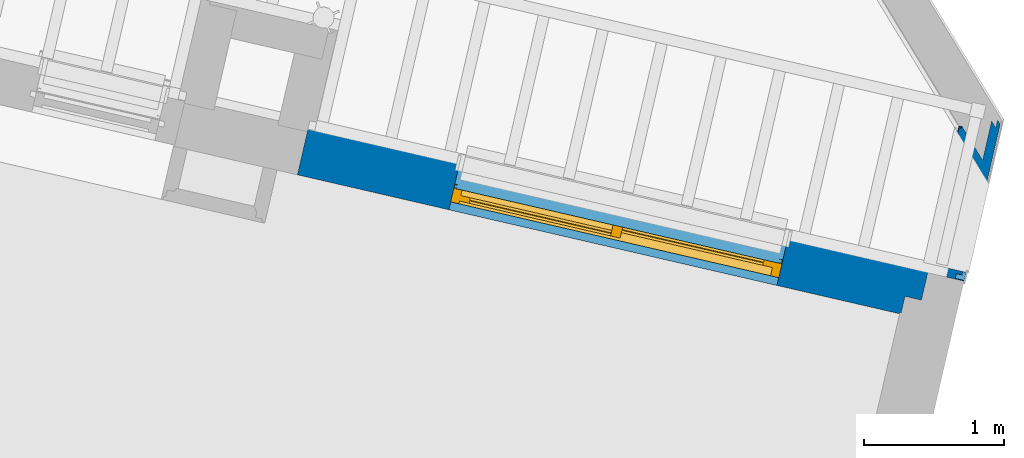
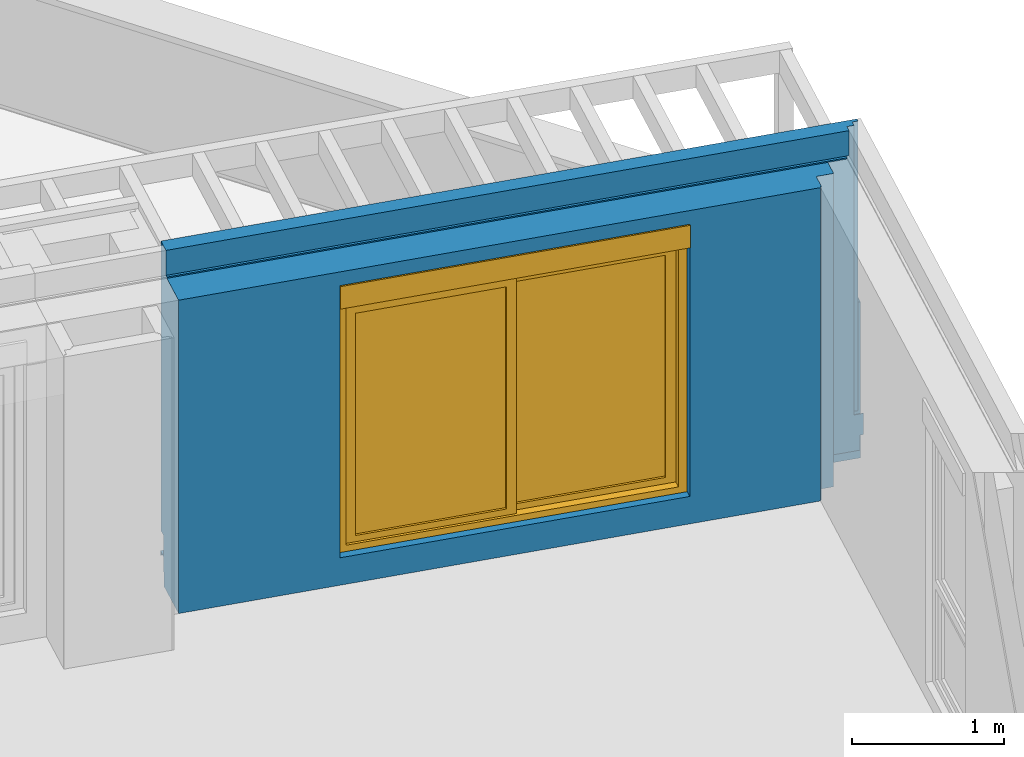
# One storey, part 36 of 62: 2 walls, 1 window, 1 opening.
"""IFC2X3 building model written with IfcOpenShell, lengths in metres."""

from ifc_helpers import new_model, entity, si_unit, converted_unit, derived_unit, money_unit, direction, frame, origin_with_axes, place, context, subcontext, project, spatial, open_shell, faceted_brep, surface_model, material, material_list, type_object, element, fill, save


model = new_model("IFC2X3")

# Units and contexts
model_context = context("Model", 3, precision=1e-05, world=origin_with_axes(), true_north=direction((0.0, 1.0)))
body_context = subcontext(model_context, "Body", "Model", "MODEL_VIEW")
ifc_project = project(units=[si_unit("LENGTHUNIT", "METRE"), si_unit("AREAUNIT", "SQUARE_METRE"), si_unit("VOLUMEUNIT", "CUBIC_METRE"), converted_unit("PLANEANGLEUNIT", "DEGREE", entity("IfcPlaneAngleMeasure", 0.0174532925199), si_unit("PLANEANGLEUNIT", "RADIAN"), dimensions=[0, 0, 0, 0, 0, 0, 0]), si_unit("SOLIDANGLEUNIT", "STERADIAN"), money_unit("EUR"), converted_unit("TIMEUNIT", "Year", entity("IfcTimeMeasure", 31556926.0), si_unit("TIMEUNIT", "SECOND"), dimensions=[0, 0, 1, 0, 0, 0, 0]), si_unit("MASSUNIT", "GRAM", prefix="KILO"), si_unit("THERMODYNAMICTEMPERATUREUNIT", "DEGREE_CELSIUS"), si_unit("LUMINOUSINTENSITYUNIT", "LUMEN"), si_unit("ENERGYUNIT", "JOULE", prefix="MEGA"), derived_unit("THERMALCONDUCTANCEUNIT", [(si_unit("POWERUNIT", "WATT"), 1), (si_unit("LENGTHUNIT", "METRE"), -1), (si_unit("THERMODYNAMICTEMPERATUREUNIT", "KELVIN"), -1)]), derived_unit("SPECIFICHEATCAPACITYUNIT", [(si_unit("ENERGYUNIT", "JOULE"), 1), (si_unit("MASSUNIT", "GRAM", prefix="KILO"), -1), (si_unit("THERMODYNAMICTEMPERATUREUNIT", "KELVIN"), -1)]), derived_unit("MASSDENSITYUNIT", [(si_unit("MASSUNIT", "GRAM", prefix="KILO"), 1), (si_unit("VOLUMEUNIT", "CUBIC_METRE"), -1)])], contexts=[model_context])

# Site, building, storey
site_placement = place(None, origin_with_axes())
site = spatial("IfcSite", under=ifc_project, at=site_placement, Name="Site", CompositionType="ELEMENT")
building_placement = place(site_placement, origin_with_axes())
building = spatial("IfcBuilding", under=site, at=building_placement, Name="Bâtiment", CompositionType="ELEMENT")
storey_placement = place(building_placement, frame((0.0, 0.0, 8.16), z_axis=(0.0, 0.0, 1.0), x_axis=(1.0, 0.0, 0.0)))
storey = spatial("IfcBuildingStorey", under=building, at=storey_placement, Name="R+3", CompositionType="ELEMENT", Elevation=8.16)

# Wall, opening, window
ifc_material_1 = material(Name="Finition int - Plaque de plâtre")
ifc_material_2 = material(Name="Isolation - Polystyrène extrudé")
ifc_material_3 = material(Name="Bloc ELITHERM")
ifc_material_4 = material(Name="Mortier")
ifc_material_5 = material(Name="Béton cellulaire")
ifc_material_6 = material(Name="Etanchéité - Bitume")
ifc_material_7 = material(Name="Bois - Lattage")
ifc_material_8 = material(Name="Finition ext - Bardage bois")
ifc_material_9 = material(Name="Métal - Aluminium")
ifc_material_list_1 = material_list([ifc_material_1, ifc_material_2, ifc_material_3, ifc_material_4, ifc_material_5, ifc_material_6, ifc_material_7, ifc_material_8, ifc_material_9])
wall_type_1 = type_object("IfcWallType", Name="Mur ALKERN + planelle 21 BARDAGE TERRASSE 403 x 2720", PredefinedType="USERDEFINED")
wall_1_placement = place(storey_placement, frame((1.22744784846, 12.8417526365, 0.0), z_axis=(0.0, 0.0, 1.0), x_axis=(-0.974387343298, 0.224876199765, 0.0)))
wall_1 = element("IfcWall", 1, at=wall_1_placement, inside=storey, type_object=wall_type_1, material=ifc_material_list_1, Name="Mue bloc ALKERN isolé", ObjectType="SOLIDWALL", context=body_context, shape_type="Brep", body=[
    faceted_brep([(0.359999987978, 0.399999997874, 0.0), (4.76539053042, 0.399999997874, 0.0), (4.76539053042, 0.399999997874, 2.51), (0.359999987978, 0.399999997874, 2.51), (3.65731715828, 0.399999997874, 2.4), (3.65731715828, 0.399999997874, 2.22), (3.65731715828, 0.399999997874, 0.22), (1.25731715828, 0.399999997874, 0.22), (1.25731715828, 0.399999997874, 2.22), (1.25731715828, 0.399999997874, 2.4), (0.359999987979, 0.410000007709, 0.0), (4.76539053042, 0.410000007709, 0.0), (4.76539053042, 0.410000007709, 2.51), (0.359999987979, 0.410000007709, 2.51), (3.65731715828, 0.410000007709, 2.4), (3.65731715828, 0.410000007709, 2.22), (3.65731715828, 0.410000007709, 0.22), (1.25731715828, 0.410000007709, 0.22), (1.25731715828, 0.410000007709, 2.22), (1.25731715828, 0.410000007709, 2.4)], [[[0, 1, 2, 3], [4, 5, 6, 7, 8, 9]], [[10, 11, 1, 0]], [[11, 12, 2, 1]], [[3, 2, 12, 13]], [[13, 10, 0, 3]], [[5, 4, 14, 15, 16, 6]], [[6, 16, 17, 7]], [[18, 19, 9, 8, 7, 17]], [[4, 9, 19, 14]], [[11, 10, 13, 12], [19, 18, 17, 16, 15, 14]]]),
    faceted_brep([(0.350000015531, 0.279999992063, 0.0), (4.76539053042, 0.279999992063, 0.0), (4.76539053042, 0.279999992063, 2.51), (0.350000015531, 0.279999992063, 2.51), (3.65731715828, 0.279999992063, 2.4), (3.65731715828, 0.279999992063, 2.22), (3.65731715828, 0.279999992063, 0.22), (1.25731715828, 0.279999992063, 0.22), (1.25731715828, 0.279999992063, 2.22), (1.25731715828, 0.279999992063, 2.4), (0.350000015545, 0.399999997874, 0.0), (4.76539053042, 0.399999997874, 0.0), (4.76539053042, 0.399999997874, 2.51), (0.350000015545, 0.399999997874, 2.51), (3.65731715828, 0.399999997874, 2.4), (3.65731715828, 0.399999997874, 2.22), (3.65731715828, 0.399999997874, 0.22), (1.25731715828, 0.399999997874, 0.22), (1.25731715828, 0.399999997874, 2.22), (1.25731715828, 0.399999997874, 2.4)], [[[0, 1, 2, 3], [4, 5, 6, 7, 8, 9]], [[10, 11, 1, 0]], [[12, 2, 1, 11]], [[3, 2, 12, 13]], [[13, 10, 0, 3]], [[5, 4, 14, 15, 16, 6]], [[6, 16, 17, 7]], [[18, 19, 9, 8, 7, 17]], [[4, 9, 19, 14]], [[11, 10, 13, 12], [19, 18, 17, 16, 15, 14]]]),
    faceted_brep([(1.25731715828, 0.279999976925, 2.22), (1.25731715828, 0.279999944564, 2.4), (1.25731715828, 0.222311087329, 2.4), (1.25731715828, 0.222311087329, 2.22), (1.25731715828, 0.0799999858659, 2.22), (1.25731715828, 0.0800000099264, 0.22), (1.25731715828, 0.280000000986, 0.22), (0.229999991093, 0.279999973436, 0.0), (0.229999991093, 0.279999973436, 2.50999999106), (4.76539053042, 0.279999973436, 2.50999999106), (4.76539053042, 0.279999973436, 0.0), (3.65731715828, 0.280000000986, 0.22), (3.65731715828, 0.279999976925, 2.22), (3.65731715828, 0.279999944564, 2.4), (3.65731715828, 0.222311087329, 2.4), (3.65731715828, 0.222311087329, 2.22), (3.65731715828, 0.0799999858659, 2.22), (4.76539053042, 0.0800000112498, 0.109999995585), (4.76539053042, 0.0799999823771, 2.50999999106), (0.229999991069, 0.0799999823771, 2.50999999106), (0.229999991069, 0.0800000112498, 0.109999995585), (3.65731715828, 0.0800000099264, 0.22), (0.229999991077, 0.148000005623, 2.50999999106), (0.229999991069, 0.0799999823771, 0.0), (4.76539053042, 0.148000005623, 2.50999999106), (4.76539053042, 0.0799999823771, 0.0)], [[[0, 1, 2, 3, 4, 5, 6]], [[7, 8, 9, 10], [1, 0, 6, 11, 12, 13]], [[1, 13, 14, 2]], [[15, 3, 2, 14]], [[3, 15, 16, 4]], [[17, 18, 19, 20], [5, 4, 16, 21]], [[21, 11, 6, 5]], [[22, 8, 7, 23, 20, 19]], [[24, 9, 8, 22]], [[17, 25, 10, 9, 24, 18]], [[10, 25, 23, 7]], [[15, 14, 13, 12, 11, 21, 16]], [[18, 24, 22, 19]], [[25, 17, 20, 23]]]),
    faceted_brep([(0.0980000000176, 0.148, 2.52), (0.0980000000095, 0.08, 2.52), (4.76539053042, 0.08, 2.52), (4.76539053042, 0.148, 2.52), (0.0980000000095, 0.08, 2.51), (0.0980000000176, 0.148, 2.51), (4.76539053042, 0.08, 2.51), (4.76539053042, 0.148, 2.51)], [[[0, 1, 2, 3]], [[4, 1, 0, 5]], [[1, 4, 6, 2]], [[6, 7, 3, 2]], [[5, 0, 3, 7]], [[4, 5, 7, 6]]]),
    faceted_brep([(0.0779999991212, 0.127999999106, 2.72), (0.0779999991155, 0.08, 2.72), (4.76539053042, 0.08, 2.72), (4.76539053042, 0.127999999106, 2.72), (0.0779999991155, 0.08, 2.51999999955), (0.0779999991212, 0.127999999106, 2.51999999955), (4.76539053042, 0.08, 2.51999999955), (4.76539053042, 0.127999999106, 2.51999999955)], [[[0, 1, 2, 3]], [[4, 1, 0, 5]], [[1, 4, 6, 2]], [[2, 6, 7, 3]], [[5, 0, 3, 7]], [[4, 5, 7, 6]]]),
    faceted_brep([(3.65731715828, 0.0700000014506, 0.22), (1.25731715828, 0.0700000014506, 0.22), (1.25731715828, 0.0700000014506, 0.229999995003), (-0.00999999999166, 0.0700000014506, 0.229999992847), (-0.00999999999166, 0.0700000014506, 0.109999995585), (4.76539053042, 0.0700000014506, 0.109999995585), (4.76539053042, 0.0700000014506, 0.230000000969), (3.65731715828, 0.0700000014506, 0.229999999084), (3.65731715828, 0.0800000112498, 0.22), (1.25731715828, 0.0800000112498, 0.22), (1.25731715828, 0.0799999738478, 0.229999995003), (-0.00999999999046, 0.0799999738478, 0.229999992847), (-0.00999999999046, 0.0800000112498, 0.109999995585), (4.76539053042, 0.0800000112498, 0.109999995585), (4.76539053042, 0.0799999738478, 0.230000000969), (3.65731715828, 0.0799999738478, 0.229999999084)], [[[0, 1, 2, 3, 4, 5, 6, 7]], [[1, 0, 8, 9]], [[10, 2, 1, 9]], [[2, 10, 11, 3]], [[3, 11, 12, 4]], [[4, 12, 13, 5]], [[6, 5, 13, 14]], [[15, 7, 6, 14]], [[0, 7, 15, 8]], [[8, 15, 14, 13, 12, 11, 10, 9]]]),
    faceted_brep([(3.65731715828, 0.039999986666, 2.22), (3.65731715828, 0.0399999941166, 0.399999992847), (4.76539053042, 0.0399999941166, 0.399999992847), (4.76539053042, 0.0399999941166, 2.72), (0.030000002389, 0.0399999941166, 2.72), (0.030000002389, 0.0399999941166, 0.399999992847), (1.25731715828, 0.0399999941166, 0.399999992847), (1.25731715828, 0.039999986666, 2.22), (3.65731715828, 0.0800000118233, 2.22), (3.65731715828, 0.0799999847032, 0.399999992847), (3.65731715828, 0.0750000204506, 0.399999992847), (4.76539053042, 0.0750000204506, 0.399999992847), (4.76539053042, 0.0800000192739, 2.72), (4.76539053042, 0.0799999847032, 0.399999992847), (0.0300000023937, 0.0800000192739, 2.72), (0.0300000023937, 0.0799999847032, 0.399999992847), (0.0300000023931, 0.0750000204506, 0.399999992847), (1.25731715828, 0.0750000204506, 0.399999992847), (1.25731715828, 0.0799999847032, 0.399999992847), (1.25731715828, 0.0800000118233, 2.22)], [[[0, 1, 2, 3, 4, 5, 6, 7]], [[1, 0, 8, 9, 10]], [[1, 10, 11, 2]], [[12, 3, 2, 11, 13]], [[14, 4, 3, 12]], [[14, 15, 16, 5, 4]], [[17, 6, 5, 16]], [[7, 6, 17, 18, 19]], [[0, 7, 19, 8]], [[19, 18, 15, 14, 12, 13, 9, 8]], [[10, 9, 13, 11]], [[18, 17, 16, 15]]]),
    faceted_brep([(3.65731715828, 0.015, 2.22), (3.65731715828, 0.015, 0.39999999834), (4.76539053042, 0.015, 0.4), (4.76539053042, 0.015, 2.72), (-0.00999999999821, 0.015, 2.72), (-0.00999999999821, 0.015, 0.399999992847), (1.25731715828, 0.015, 0.399999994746), (1.25731715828, 0.015, 2.22), (3.65731715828, 0.04, 2.22), (3.65731715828, 0.04, 0.39999999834), (4.76539053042, 0.04, 0.4), (4.76539053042, 0.04, 2.72), (-0.00999999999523, 0.04, 2.72), (-0.00999999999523, 0.04, 0.399999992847), (1.25731715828, 0.04, 0.399999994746), (1.25731715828, 0.04, 2.22)], [[[0, 1, 2, 3, 4, 5, 6, 7]], [[1, 0, 8, 9]], [[1, 9, 10, 2]], [[3, 2, 10, 11]], [[12, 4, 3, 11]], [[4, 12, 13, 5]], [[14, 6, 5, 13]], [[7, 6, 14, 15]], [[0, 7, 15, 8]], [[15, 14, 13, 12, 11, 10, 9, 8]]]),
    faceted_brep([(3.65731715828, 0.00731108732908, 0.22), (1.25731715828, 0.00731108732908, 0.22), (1.25731715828, 0.00731108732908, 0.235), (-0.0350000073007, 0.00731108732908, 0.235), (-0.0350000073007, 0.00731108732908, 0.2), (4.76539053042, 0.00731108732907, 0.2), (4.76539053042, 0.00731108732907, 0.235), (3.65731715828, 0.00731108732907, 0.235), (3.65731715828, 0.0123110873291, 0.22), (1.25731715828, 0.0123110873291, 0.22), (1.25731715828, 0.075, 0.235), (1.25731715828, 0.0123110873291, 0.23), (1.25731715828, 0.0700000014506, 0.230000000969), (1.25731715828, 0.08, 0.23), (1.25731715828, 0.08, 0.4), (1.25731715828, 0.075, 0.4), (-0.0350000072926, 0.075, 0.235), (-0.0350000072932, 0.0700000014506, 0.230000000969), (-0.0350000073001, 0.0123110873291, 0.23), (-0.0350000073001, 0.0123110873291, 0.2), (-0.0350000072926, 0.075, 0.4), (-0.035000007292, 0.08, 0.4), (-0.035000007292, 0.08, 0.23), (4.76539053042, 0.0123110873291, 0.2), (4.76539053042, 0.0123110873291, 0.23), (4.76539053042, 0.0700000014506, 0.230000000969), (4.76539053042, 0.08, 0.23), (4.76539053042, 0.08, 0.4), (4.76539053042, 0.075, 0.4), (4.76539053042, 0.075, 0.235), (3.65731715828, 0.075, 0.235), (3.65731715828, 0.075, 0.4), (3.65731715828, 0.08, 0.4), (3.65731715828, 0.08, 0.23), (3.65731715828, 0.0700000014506, 0.230000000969), (3.65731715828, 0.0123110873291, 0.23)], [[[0, 1, 2, 3, 4, 5, 6, 7]], [[1, 0, 8, 9]], [[10, 2, 1, 9, 11, 12, 13, 14, 15]], [[2, 10, 16, 3]], [[17, 18, 19, 4, 3, 16, 20, 21, 22]], [[19, 23, 5, 4]], [[23, 24, 25, 26, 27, 28, 29, 6, 5]], [[30, 7, 6, 29]], [[0, 7, 30, 31, 32, 33, 34, 35, 8]], [[8, 35, 24, 23, 19, 18, 11, 9]], [[12, 11, 18, 17]], [[13, 12, 17, 22]], [[14, 13, 22, 21]], [[15, 14, 21, 20]], [[10, 15, 20, 16]], [[35, 34, 25, 24]], [[34, 33, 26, 25]], [[33, 32, 27, 26]], [[32, 31, 28, 27]], [[31, 30, 29, 28]]]),
])
opening_placement = place(wall_1_placement, frame((2.45731715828, 0.0, 0.22), z_axis=(0.0, 0.0, 1.0), x_axis=(1.0, 0.0, 0.0)))
opening = element("IfcOpeningElement", 2, at=opening_placement, cuts=wall_1, Name="MEN 103", context=body_context, shape_type="Brep", body=[
    faceted_brep([(-1.2, 0.900000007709, 0.0), (1.2, 0.900000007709, 0.0), (1.2, 0.252311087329, 0.0), (-1.2, 0.252311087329, 0.0), (-1.2, 0.900000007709, 2.0), (1.2, 0.900000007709, 2.0), (1.2, 0.252311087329, 2.0), (-1.2, 0.252311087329, 2.0)], [[[0, 1, 2, 3]], [[0, 4, 5, 1]], [[1, 5, 6, 2]], [[3, 2, 6, 7]], [[4, 0, 3, 7]], [[5, 4, 7, 6]]]),
    faceted_brep([(-1.2, -0.395377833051, 0.0), (-1.2, -0.395377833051, 2.0), (-1.2, 0.252311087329, 2.0), (-1.2, 0.252311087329, 0.0), (1.2, -0.395377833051, 0.0), (1.2, -0.395377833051, 2.0), (1.2, 0.252311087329, 2.0), (1.2, 0.252311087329, 0.0)], [[[0, 1, 2, 3]], [[0, 4, 5, 1]], [[1, 5, 6, 2]], [[3, 2, 6, 7]], [[4, 0, 3, 7]], [[5, 4, 7, 6]]]),
    faceted_brep([(-1.2, -0.395377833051, 0.0), (-1.2, -0.395377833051, 2.0), (-1.2, 0.252311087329, 2.0), (-1.2, 0.252311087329, 0.0), (1.2, -0.395377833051, 0.0), (1.2, -0.395377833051, 2.0), (1.2, 0.252311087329, 2.0), (1.2, 0.252311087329, 0.0)], [[[0, 1, 2, 3]], [[0, 4, 5, 1]], [[1, 5, 6, 2]], [[3, 2, 6, 7]], [[4, 0, 3, 7]], [[5, 4, 7, 6]]]),
    faceted_brep([(-1.2, 0.870000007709, 2.0), (1.2, 0.870000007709, 2.0), (1.2, 0.222311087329, 2.0), (-1.2, 0.222311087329, 2.0), (-1.2, 0.870000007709, 2.18), (1.2, 0.870000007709, 2.18), (1.2, 0.222311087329, 2.18), (-1.2, 0.222311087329, 2.18)], [[[0, 1, 2, 3]], [[0, 4, 5, 1]], [[1, 5, 6, 2]], [[3, 2, 6, 7]], [[4, 0, 3, 7]], [[5, 4, 7, 6]]]),
])
window_style = type_object("IfcWindowStyle", Name="Baie générique 2017 v2", ConstructionType="NOTDEFINED", OperationType="NOTDEFINED", ParameterTakesPrecedence=False, Sizeable=False)
window_placement = place(opening_placement, frame((-1.2, 0.0, 0.0), z_axis=(0.0, 0.0, 1.0), x_axis=(1.0, 0.0, 0.0)))
window = element("IfcWindow", 3, at=window_placement, inside=storey, type_object=window_style, Name="MEN 103", ObjectType="WINDOW", OverallHeight=2.0, OverallWidth=2.4, context=body_context, shape_type="SurfaceModel", body=[
    faceted_brep([(0.0, 0.352311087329, 0.0), (2.4, 0.352311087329, 0.0), (2.4, 0.252311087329, 0.0), (0.0, 0.252311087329, 0.0), (0.0, 0.352311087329, 2.0), (2.4, 0.352311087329, 2.0), (0.06, 0.352311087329, 0.05), (2.34, 0.352311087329, 0.05), (2.34, 0.352311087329, 1.95), (0.06, 0.352311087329, 1.95), (2.4, 0.252311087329, 2.0), (0.0, 0.252311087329, 2.0), (0.06, 0.252311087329, 0.05), (0.06, 0.252311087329, 1.95), (2.34, 0.252311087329, 1.95), (2.34, 0.252311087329, 0.05)], [[[0, 1, 2, 3]], [[0, 4, 5, 1], [6, 7, 8, 9]], [[1, 5, 10, 2]], [[3, 2, 10, 11], [12, 13, 14, 15]], [[4, 0, 3, 11]], [[5, 4, 11, 10]], [[7, 6, 12, 15]], [[8, 7, 15, 14]], [[9, 8, 14, 13]], [[6, 9, 13, 12]]]),
    faceted_brep([(0.06, 0.292311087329, 0.05), (0.06, 0.292311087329, 1.95), (1.235, 0.292311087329, 1.95), (1.235, 0.292311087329, 0.05), (1.165, 0.292311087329, 1.88), (0.13, 0.292311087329, 1.88), (0.13, 0.292311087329, 0.1), (1.165, 0.292311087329, 0.1), (0.06, 0.252311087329, 1.95), (0.06, 0.272311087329, 1.95), (0.06, 0.272311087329, 0.05), (0.06, 0.252311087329, 0.05), (1.235, 0.252311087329, 1.95), (1.235, 0.272311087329, 1.95), (1.235, 0.252311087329, 0.05), (1.235, 0.272311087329, 0.05), (1.165, 0.252311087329, 1.88), (0.13, 0.252311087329, 1.88), (0.13, 0.252311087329, 0.1), (1.165, 0.252311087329, 0.1)], [[[0, 1, 2, 3], [4, 5, 6, 7]], [[8, 9, 1, 0, 10, 11]], [[12, 13, 2, 1, 9, 8]], [[13, 12, 14, 15, 3, 2]], [[15, 14, 11, 10, 0, 3]], [[5, 4, 16, 17]], [[18, 6, 5, 17]], [[19, 7, 6, 18]], [[4, 7, 19, 16]], [[12, 8, 11, 14], [19, 18, 17, 16]]]),
    surface_model("IfcShellBasedSurfaceModel", [(0.06, 0.292311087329, 0.05), (0.06, 0.292311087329, 1.95), (1.235, 0.292311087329, 1.95), (1.235, 0.292311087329, 0.05), (0.13, 0.292311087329, 0.1), (1.165, 0.292311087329, 0.1), (1.165, 0.292311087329, 1.88), (0.13, 0.292311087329, 1.88)], [open_shell([[[0, 1, 2, 3], [4, 5, 6, 7]]])]),
    surface_model("IfcShellBasedSurfaceModel", [(0.06, 0.252311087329, 0.05), (0.06, 0.252311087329, 1.95), (1.235, 0.252311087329, 1.95), (1.235, 0.252311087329, 0.05), (0.13, 0.252311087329, 0.1), (1.165, 0.252311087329, 0.1), (1.165, 0.252311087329, 1.88), (0.13, 0.252311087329, 1.88)], [open_shell([[[0, 1, 2, 3], [4, 5, 6, 7]]])]),
    faceted_brep([(0.13, 0.274811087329, 0.1), (1.165, 0.274811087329, 0.1), (1.165, 0.269811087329, 0.1), (0.13, 0.269811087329, 0.1), (0.13, 0.274811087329, 1.88), (1.165, 0.274811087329, 1.88), (1.165, 0.269811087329, 1.88), (0.13, 0.269811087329, 1.88)], [[[0, 1, 2, 3]], [[0, 4, 5, 1]], [[1, 5, 6, 2]], [[3, 2, 6, 7]], [[4, 0, 3, 7]], [[5, 4, 7, 6]]]),
    faceted_brep([(1.165, 0.332311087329, 0.05), (1.165, 0.332311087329, 1.95), (2.34, 0.332311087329, 1.95), (2.34, 0.332311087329, 0.05), (2.27, 0.332311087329, 1.88), (1.235, 0.332311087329, 1.88), (1.235, 0.332311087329, 0.1), (2.27, 0.332311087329, 0.1), (1.165, 0.292311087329, 1.95), (1.165, 0.312311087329, 1.95), (1.165, 0.312311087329, 0.05), (1.165, 0.292311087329, 0.05), (2.34, 0.292311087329, 1.95), (2.34, 0.312311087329, 1.95), (2.34, 0.292311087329, 0.05), (2.34, 0.312311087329, 0.05), (2.27, 0.292311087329, 1.88), (1.235, 0.292311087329, 1.88), (1.235, 0.292311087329, 0.1), (2.27, 0.292311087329, 0.1)], [[[0, 1, 2, 3], [4, 5, 6, 7]], [[8, 9, 1, 0, 10, 11]], [[12, 13, 2, 1, 9, 8]], [[13, 12, 14, 15, 3, 2]], [[15, 14, 11, 10, 0, 3]], [[5, 4, 16, 17]], [[18, 6, 5, 17]], [[19, 7, 6, 18]], [[4, 7, 19, 16]], [[12, 8, 11, 14], [19, 18, 17, 16]]]),
    surface_model("IfcShellBasedSurfaceModel", [(1.165, 0.332311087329, 0.05), (1.165, 0.332311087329, 1.95), (2.34, 0.332311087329, 1.95), (2.34, 0.332311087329, 0.05), (1.235, 0.332311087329, 0.1), (2.27, 0.332311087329, 0.1), (2.27, 0.332311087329, 1.88), (1.235, 0.332311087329, 1.88)], [open_shell([[[0, 1, 2, 3], [4, 5, 6, 7]]])]),
    surface_model("IfcShellBasedSurfaceModel", [(1.165, 0.292311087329, 0.05), (1.165, 0.292311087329, 1.95), (2.34, 0.292311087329, 1.95), (2.34, 0.292311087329, 0.05), (1.235, 0.292311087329, 0.1), (2.27, 0.292311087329, 0.1), (2.27, 0.292311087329, 1.88), (1.235, 0.292311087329, 1.88)], [open_shell([[[0, 1, 2, 3], [4, 5, 6, 7]]])]),
    faceted_brep([(1.235, 0.314811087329, 0.1), (2.27, 0.314811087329, 0.1), (2.27, 0.309811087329, 0.1), (1.235, 0.309811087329, 0.1), (1.235, 0.314811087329, 1.88), (2.27, 0.314811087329, 1.88), (2.27, 0.309811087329, 1.88), (1.235, 0.309811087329, 1.88)], [[[0, 1, 2, 3]], [[0, 4, 5, 1]], [[1, 5, 6, 2]], [[3, 2, 6, 7]], [[4, 0, 3, 7]], [[5, 4, 7, 6]]]),
    faceted_brep([(0.0, 0.222311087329, 0.0), (0.025, 0.222311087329, 0.0), (0.025, 0.222311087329, 2.0), (0.0, 0.222311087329, 2.0), (0.0, 0.250311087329, 0.0), (0.025, 0.250311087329, 0.0), (0.025, 0.248311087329, 0.0), (0.002, 0.248311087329, 0.0), (0.002, 0.224311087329, 0.0), (0.025, 0.224311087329, 0.0), (0.025, 0.224311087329, 2.0), (0.002, 0.224311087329, 2.0), (0.002, 0.248311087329, 2.0), (0.025, 0.248311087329, 2.0), (0.025, 0.250311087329, 2.0), (0.0, 0.250311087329, 2.0)], [[[0, 1, 2, 3]], [[0, 4, 5, 6, 7, 8, 9, 1]], [[1, 9, 10, 2]], [[3, 2, 10, 11, 12, 13, 14, 15]], [[4, 0, 3, 15]], [[5, 4, 15, 14]], [[6, 5, 14, 13]], [[7, 6, 13, 12]], [[8, 7, 12, 11]], [[9, 8, 11, 10]]]),
    faceted_brep([(2.4, 0.222311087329, 0.0), (2.4, 0.222311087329, 2.0), (2.375, 0.222311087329, 2.0), (2.375, 0.222311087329, 0.0), (2.4, 0.250311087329, 0.0), (2.4, 0.250311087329, 2.0), (2.375, 0.250311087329, 2.0), (2.375, 0.248311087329, 2.0), (2.398, 0.248311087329, 2.0), (2.398, 0.224311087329, 2.0), (2.375, 0.224311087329, 2.0), (2.375, 0.224311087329, 0.0), (2.398, 0.224311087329, 0.0), (2.398, 0.248311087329, 0.0), (2.375, 0.248311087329, 0.0), (2.375, 0.250311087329, 0.0)], [[[0, 1, 2, 3]], [[4, 5, 1, 0]], [[1, 5, 6, 7, 8, 9, 10, 2]], [[3, 2, 10, 11]], [[0, 3, 11, 12, 13, 14, 15, 4]], [[15, 6, 5, 4]], [[14, 7, 6, 15]], [[13, 8, 7, 14]], [[12, 9, 8, 13]], [[11, 10, 9, 12]]]),
    faceted_brep([(2.398, 0.224311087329, 2.0), (0.002, 0.224311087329, 2.0), (0.002, 0.224311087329, 2.178), (2.398, 0.224311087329, 2.178), (2.398, 0.222311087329, 2.0), (0.002, 0.222311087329, 2.0), (0.002, 0.222311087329, 2.18), (0.002, 0.422311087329, 2.18), (0.002, 0.422311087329, 2.0), (0.002, 0.420311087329, 2.0), (0.002, 0.420311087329, 2.178), (2.398, 0.420311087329, 2.178), (2.398, 0.420311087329, 2.0), (2.398, 0.422311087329, 2.0), (2.398, 0.422311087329, 2.18), (2.398, 0.222311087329, 2.18)], [[[0, 1, 2, 3]], [[4, 5, 1, 0]], [[1, 5, 6, 7, 8, 9, 10, 2]], [[3, 2, 10, 11]], [[0, 3, 11, 12, 13, 14, 15, 4]], [[15, 6, 5, 4]], [[14, 7, 6, 15]], [[13, 8, 7, 14]], [[12, 9, 8, 13]], [[11, 10, 9, 12]]]),
    faceted_brep([(2.398, 0.324780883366, 2.07436337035), (2.398, 0.332311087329, 2.09), (2.398, 0.324780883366, 2.10563662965), (2.398, 0.30786066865, 2.10949855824), (2.398, 0.294291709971, 2.09867767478), (2.398, 0.294291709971, 2.08132232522), (2.398, 0.30786066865, 2.07050144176), (0.002, 0.324780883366, 2.07436337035), (0.002, 0.332311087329, 2.09), (0.002, 0.324780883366, 2.10563662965), (0.002, 0.30786066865, 2.10949855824), (0.002, 0.294291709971, 2.09867767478), (0.002, 0.294291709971, 2.08132232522), (0.002, 0.30786066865, 2.07050144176)], [[[0, 1, 2, 3, 4, 5, 6]], [[0, 7, 8, 1]], [[1, 8, 9, 2]], [[2, 9, 10, 3]], [[3, 10, 11, 4]], [[4, 11, 12, 5]], [[5, 12, 13, 6]], [[6, 13, 7, 0]], [[7, 13, 12, 11, 10, 9, 8]]]),
    faceted_brep([(2.388, 0.382586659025, 2.05615706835), (2.388, 0.390311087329, 2.09), (2.388, 0.382586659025, 2.12384293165), (2.388, 0.360943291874, 2.15098285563), (2.388, 0.329667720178, 2.16604437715), (2.388, 0.29495445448, 2.16604437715), (2.388, 0.263678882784, 2.15098285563), (2.388, 0.242035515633, 2.12384293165), (2.388, 0.234311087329, 2.09), (2.388, 0.242035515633, 2.05615706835), (2.388, 0.263678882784, 2.02901714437), (2.388, 0.29495445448, 2.01395562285), (2.388, 0.329667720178, 2.01395562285), (2.388, 0.360943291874, 2.02901714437), (0.012, 0.382586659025, 2.05615706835), (0.012, 0.390311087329, 2.09), (0.012, 0.382586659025, 2.12384293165), (0.012, 0.360943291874, 2.15098285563), (0.012, 0.329667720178, 2.16604437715), (0.012, 0.29495445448, 2.16604437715), (0.012, 0.263678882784, 2.15098285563), (0.012, 0.242035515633, 2.12384293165), (0.012, 0.234311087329, 2.09), (0.012, 0.242035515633, 2.05615706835), (0.012, 0.263678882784, 2.02901714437), (0.012, 0.29495445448, 2.01395562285), (0.012, 0.329667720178, 2.01395562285), (0.012, 0.360943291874, 2.02901714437)], [[[0, 1, 2, 3, 4, 5, 6, 7, 8, 9, 10, 11, 12, 13]], [[0, 14, 15, 1]], [[1, 15, 16, 2]], [[2, 16, 17, 3]], [[3, 17, 18, 4]], [[4, 18, 19, 5]], [[5, 19, 20, 6]], [[6, 20, 21, 7]], [[7, 21, 22, 8]], [[8, 22, 23, 9]], [[9, 23, 24, 10]], [[10, 24, 25, 11]], [[11, 25, 26, 12]], [[12, 26, 27, 13]], [[13, 27, 14, 0]], [[14, 27, 26, 25, 24, 23, 22, 21, 20, 19, 18, 17, 16, 15]]]),
    faceted_brep([(2.4, 0.422311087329, 2.0), (2.398, 0.422311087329, 2.0), (2.398, 0.422311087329, 2.18), (2.4, 0.422311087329, 2.18), (2.4, 0.222311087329, 2.0), (2.398, 0.222311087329, 2.0), (2.398, 0.222311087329, 2.18), (2.4, 0.222311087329, 2.18)], [[[0, 1, 2, 3]], [[4, 5, 1, 0]], [[1, 5, 6, 2]], [[3, 2, 6, 7]], [[0, 3, 7, 4]], [[7, 6, 5, 4]]]),
    faceted_brep([(0.002, 0.422311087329, 2.0), (0.0, 0.422311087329, 2.0), (0.0, 0.422311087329, 2.18), (0.002, 0.422311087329, 2.18), (0.002, 0.222311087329, 2.0), (0.0, 0.222311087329, 2.0), (0.0, 0.222311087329, 2.18), (0.002, 0.222311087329, 2.18)], [[[0, 1, 2, 3]], [[4, 5, 1, 0]], [[1, 5, 6, 2]], [[3, 2, 6, 7]], [[0, 3, 7, 4]], [[7, 6, 5, 4]]]),
    faceted_brep([(2.398, 0.248311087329, 2.0), (0.002, 0.248311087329, 2.0), (0.002, 0.420311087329, 2.0), (2.398, 0.420311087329, 2.0), (2.398, 0.248311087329, 2.002), (0.002, 0.248311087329, 2.002), (0.002, 0.420311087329, 2.002), (2.398, 0.420311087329, 2.002)], [[[0, 1, 2, 3]], [[4, 5, 1, 0]], [[1, 5, 6, 2]], [[3, 2, 6, 7]], [[0, 3, 7, 4]], [[7, 6, 5, 4]]]),
    faceted_brep([(0.012, 0.246311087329, 2.0), (0.012, 0.246311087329, 2.09), (2.388, 0.246311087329, 2.09), (2.388, 0.246311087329, 2.0), (0.012, 0.226311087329, 2.0), (0.012, 0.226311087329, 2.09), (2.388, 0.226311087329, 2.09), (2.388, 0.226311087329, 2.0)], [[[0, 1, 2, 3]], [[1, 0, 4, 5]], [[2, 1, 5, 6]], [[3, 2, 6, 7]], [[4, 0, 3, 7]], [[5, 4, 7, 6]]]),
])
fill(opening, window)

# Wall
ifc_material_10 = material(Name="Béton")
ifc_material_11 = material(Name="Finition ext - Crépis")
ifc_material_list_2 = material_list([ifc_material_8, ifc_material_7, ifc_material_10, ifc_material_6, ifc_material_11, ifc_material_9])
wall_type_2 = type_object("IfcWallType", Name="Acrotère plancher 21 isolée TERR ACCE BARDAGE BOIS 285 x 1250", PredefinedType="USERDEFINED")
wall_2_placement = place(storey_placement, frame((1.50960956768, 13.9087167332, 0.0), z_axis=(0.0, 0.0, 1.0), x_axis=(-0.224876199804, -0.974387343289, 0.0)))
element("IfcWall", 4, at=wall_2_placement, inside=storey, type_object=wall_type_2, material=ifc_material_list_2, Name="Muret béton 20cm", ObjectType="PARAPET", context=body_context, shape_type="Brep", body=[
    faceted_brep([(0.0358038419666, 0.0, 0.267041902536), (0.0358038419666, 0.0, 1.249897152), (1.11808777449, 0.0, 1.24989715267), (1.11808777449, 0.0, 0.0), (0.0358038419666, 0.0, 0.0), (0.0358038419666, 0.0, 0.100000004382), (0.0358038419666, 0.0, 0.192882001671), (0.0358038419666, 0.0, 0.220000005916), (0.0358038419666, 0.0, 0.228976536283), (0.0101734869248, -0.025, 1.249897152), (0.0101734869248, -0.025, 0.267041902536), (1.11808777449, -0.025, 1.24989715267), (1.11808777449, -0.025, 0.0), (0.0101734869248, -0.025, 0.0), (0.0101734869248, -0.025, 0.100000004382), (0.0101734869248, -0.025, 0.192882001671), (0.0101734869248, -0.025, 0.220000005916), (0.0101734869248, -0.025, 0.228976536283)], [[[0, 1, 2, 3, 4, 5, 6, 7, 8]], [[9, 1, 0, 10]], [[1, 9, 11, 2]], [[2, 11, 12, 3]], [[13, 4, 3, 12]], [[14, 5, 4, 13]], [[15, 6, 5, 14]], [[16, 7, 6, 15]], [[17, 8, 7, 16]], [[10, 0, 8, 17]], [[9, 10, 17, 16, 15, 14, 13, 12, 11]]]),
    faceted_brep([(0.0674596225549, -0.0249999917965, 1.249897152), (1.11808777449, -0.0249999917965, 1.24989715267), (1.11808777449, -0.0249999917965, 0.0), (0.0674596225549, -0.0249999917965, 0.0), (0.0264510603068, -0.0649999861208, 1.249897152), (1.11808777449, -0.0649999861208, 1.24989715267), (1.11808777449, -0.0649999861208, 0.0), (0.0264510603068, -0.0649999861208, 0.0)], [[[0, 1, 2, 3]], [[1, 0, 4, 5]], [[1, 5, 6, 2]], [[6, 7, 3, 2]], [[7, 4, 0, 3]], [[5, 4, 7, 6]]]),
    faceted_brep([(0.31288181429, -0.065, 1.249897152), (1.11808777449, -0.065, 1.24989715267), (1.11808777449, -0.065, 0.0), (0.31288181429, -0.065, 0.0), (0.31288181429, -0.065, 0.100000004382), (0.10783896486, -0.265000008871, 1.249897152), (1.11808777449, -0.265000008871, 1.24989715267), (1.11808777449, -0.265000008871, 0.100000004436), (1.11808777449, -0.265000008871, 0.0), (1.11808777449, -0.265000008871, 0.228976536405), (1.11808777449, -0.265000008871, 0.220000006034), (0.10783896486, -0.265000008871, 0.0), (0.10783896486, -0.265000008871, 0.100000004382), (0.10783896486, -0.265000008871, 0.220000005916), (0.10783896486, -0.265000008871, 0.228976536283)], [[[0, 1, 2, 3, 4]], [[1, 0, 5, 6]], [[7, 8, 2, 1, 6, 9, 10]], [[8, 11, 3, 2]], [[11, 12, 4, 3]], [[12, 13, 14, 5, 0, 4]], [[6, 5, 14, 9]], [[7, 12, 11, 8]], [[9, 14, 13, 10]], [[10, 13, 12, 7]]]),
    faceted_brep([(1.11808777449, -0.265000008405, 0.11), (0.12216048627, -0.265000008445, 0.11), (0.12216048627, -0.265000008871, 0.220000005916), (1.11808777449, -0.265000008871, 0.220000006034), (0.111908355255, -0.27499999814, 0.11), (1.11808777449, -0.27499999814, 0.11), (0.111908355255, -0.27499999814, 0.220000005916), (1.11808777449, -0.27499999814, 0.220000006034)], [[[0, 1, 2, 3]], [[4, 1, 0, 5]], [[1, 4, 6, 2]], [[3, 2, 6, 7]], [[5, 0, 3, 7]], [[4, 5, 7, 6]]]),
    faceted_brep([(0.129321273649, -0.265000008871, 0.267041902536), (0.129321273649, -0.265000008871, 1.249897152), (1.11808777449, -0.265000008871, 1.24989715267), (1.11808777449, -0.265000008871, 0.267041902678), (0.113943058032, -0.280000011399, 1.249897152), (0.128249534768, -0.266045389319, 0.267041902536), (0.113943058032, -0.280000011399, 0.267041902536), (1.11808777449, -0.280000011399, 1.24989715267), (1.11808777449, -0.280000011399, 0.267041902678), (1.11808777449, -0.266045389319, 0.267041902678)], [[[0, 1, 2, 3]], [[4, 1, 0, 5, 6]], [[1, 4, 7, 2]], [[3, 2, 7, 8, 9]], [[5, 0, 3, 9]], [[6, 5, 9, 8]], [[4, 6, 8, 7]]]),
    faceted_brep([(0.113052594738, -0.26499999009, 0.228976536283), (0.109336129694, -0.265, 0.230023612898), (0.109336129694, -0.265, 0.267041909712), (1.11808777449, -0.265, 0.267041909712), (1.11808777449, -0.265, 0.228976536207), (0.109320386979, -0.268640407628, 0.228976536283), (0.108264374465, -0.266045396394, 0.230023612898), (0.108264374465, -0.266045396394, 0.267041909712), (1.11808777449, -0.266045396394, 0.267041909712), (1.11808777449, -0.266045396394, 0.230023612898), (1.11808777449, -0.285484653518, 0.222179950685), (1.11808777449, -0.285484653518, 0.192882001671), (1.11808777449, -0.284250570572, 0.192882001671), (1.11808777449, -0.284250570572, 0.221101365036), (0.120143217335, -0.281614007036, 0.222179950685), (0.117440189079, -0.284250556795, 0.221101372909), (0.116174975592, -0.285484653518, 0.222179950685), (0.116174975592, -0.285484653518, 0.220000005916), (0.116174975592, -0.285484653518, 0.192882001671), (0.117440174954, -0.284250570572, 0.192882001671), (0.117440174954, -0.284250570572, 0.220000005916)], [[[0, 1, 2, 3, 4]], [[1, 0, 5, 6]], [[7, 2, 1, 6]], [[2, 7, 8, 3]], [[8, 9, 10, 11, 12, 13, 4, 3]], [[14, 0, 4, 13, 15]], [[5, 0, 14, 16]], [[6, 5, 16, 10, 9]], [[7, 6, 9, 8]], [[16, 17, 18, 11, 10]], [[18, 19, 12, 11]], [[20, 15, 13, 12, 19]], [[14, 15, 20, 17, 16]], [[17, 20, 19, 18]]]),
])

save(model, "model.ifc")
